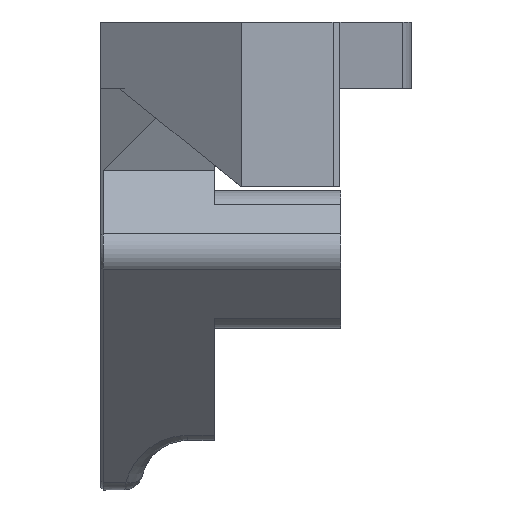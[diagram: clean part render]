
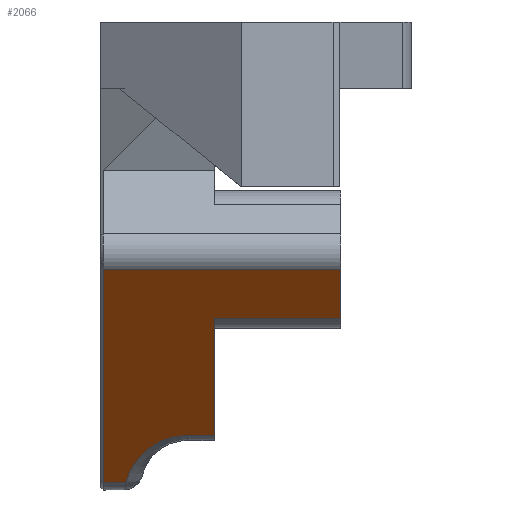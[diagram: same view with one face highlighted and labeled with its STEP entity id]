
A CAD part, left-side view. The second image highlights one B-rep face of the part: STEP entity #2066.
In plain terms, the highlighted planar face has unit normal (-0.707, 0, -0.707).
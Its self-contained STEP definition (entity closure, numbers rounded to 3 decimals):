
#26=ELLIPSE('',#2189,7.778,5.5);
#59=PLANE('',#2207);
#232=FACE_OUTER_BOUND('',#359,.T.);
#359=EDGE_LOOP('',(#1501,#1502,#1503,#1504,#1505,#1506,#1507,#1508));
#496=LINE('',#3716,#664);
#504=LINE('',#3889,#672);
#505=LINE('',#3891,#673);
#506=LINE('',#3893,#674);
#507=LINE('',#3895,#675);
#508=LINE('',#3897,#676);
#509=LINE('',#3898,#677);
#664=VECTOR('',#2401,10.);
#672=VECTOR('',#2453,10.);
#673=VECTOR('',#2454,10.);
#674=VECTOR('',#2455,10.);
#675=VECTOR('',#2456,10.);
#676=VECTOR('',#2457,10.);
#677=VECTOR('',#2458,2.133);
#920=VERTEX_POINT('',#3713);
#921=VERTEX_POINT('',#3715);
#923=VERTEX_POINT('',#3762);
#939=VERTEX_POINT('',#3888);
#940=VERTEX_POINT('',#3890);
#941=VERTEX_POINT('',#3892);
#942=VERTEX_POINT('',#3894);
#943=VERTEX_POINT('',#3896);
#1132=EDGE_CURVE('',#920,#921,#496,.T.);
#1137=EDGE_CURVE('',#921,#923,#26,.T.);
#1159=EDGE_CURVE('',#920,#939,#504,.T.);
#1160=EDGE_CURVE('',#940,#939,#505,.T.);
#1161=EDGE_CURVE('',#941,#940,#506,.T.);
#1162=EDGE_CURVE('',#942,#941,#507,.T.);
#1163=EDGE_CURVE('',#943,#942,#508,.T.);
#1164=EDGE_CURVE('',#923,#943,#509,.T.);
#1501=ORIENTED_EDGE('',*,*,#1137,.F.);
#1502=ORIENTED_EDGE('',*,*,#1132,.F.);
#1503=ORIENTED_EDGE('',*,*,#1159,.T.);
#1504=ORIENTED_EDGE('',*,*,#1160,.F.);
#1505=ORIENTED_EDGE('',*,*,#1161,.F.);
#1506=ORIENTED_EDGE('',*,*,#1162,.F.);
#1507=ORIENTED_EDGE('',*,*,#1163,.F.);
#1508=ORIENTED_EDGE('',*,*,#1164,.F.);
#2066=ADVANCED_FACE('',(#232),#59,.T.);
#2189=AXIS2_PLACEMENT_3D('',#3766,#2409,#2410);
#2207=AXIS2_PLACEMENT_3D('',#3887,#2451,#2452);
#2401=DIRECTION('',(0.,1.,0.));
#2409=DIRECTION('center_axis',(-0.707,0.,
-0.707));
#2410=DIRECTION('ref_axis',(-0.707,0.,0.707));
#2451=DIRECTION('center_axis',(-0.707,0.,
-0.707));
#2452=DIRECTION('ref_axis',(0.707,0.,-0.707));
#2453=DIRECTION('',(-0.707,0.,0.707));
#2454=DIRECTION('',(0.,1.,0.));
#2455=DIRECTION('',(0.707,0.,-0.707));
#2456=DIRECTION('',(0.,-1.,0.));
#2457=DIRECTION('',(-0.707,0.,0.707));
#2458=DIRECTION('',(0.,1.,0.));
#3713=CARTESIAN_POINT('',(18.839,42.458,2.172));
#3715=CARTESIAN_POINT('',(18.839,44.75,2.172));
#3716=CARTESIAN_POINT('',(18.839,48.454,2.172));
#3762=CARTESIAN_POINT('',(22.898,50.058,-1.887));
#3766=CARTESIAN_POINT('Origin',(24.339,44.75,-3.328));
#3887=CARTESIAN_POINT('Origin',(4.55,51.908,16.462));
#3888=CARTESIAN_POINT('',(8.775,42.458,12.237));
#3889=CARTESIAN_POINT('',(6.651,42.458,14.36));
#3890=CARTESIAN_POINT('',(8.775,31.62,12.237));
#3891=CARTESIAN_POINT('',(8.775,46.636,12.237));
#3892=CARTESIAN_POINT('',(4.55,31.62,16.462));
#3893=CARTESIAN_POINT('',(10.867,31.62,10.145));
#3894=CARTESIAN_POINT('',(4.55,52.008,16.462));
#3895=CARTESIAN_POINT('',(4.55,40.858,16.462));
#3896=CARTESIAN_POINT('',(22.898,52.008,-1.887));
#3897=CARTESIAN_POINT('',(10.867,52.008,10.145));
#3898=CARTESIAN_POINT('',(22.898,50.261,-1.887));
